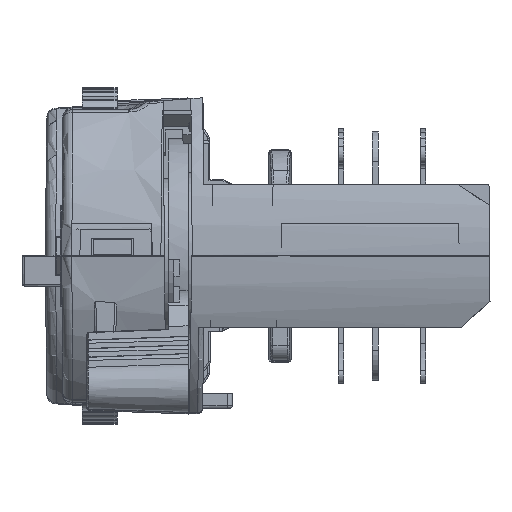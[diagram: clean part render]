
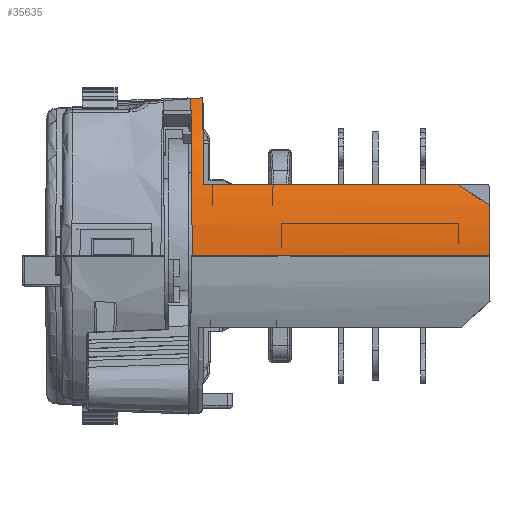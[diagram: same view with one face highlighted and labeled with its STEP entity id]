
A CAD part, left-side view. The second image highlights one B-rep face of the part: STEP entity #35635.
In plain terms, the highlighted cylindrical face has radius 20 mm (diameter 40 mm), a partial arc.
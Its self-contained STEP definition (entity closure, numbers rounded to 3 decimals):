
#31554=CARTESIAN_POINT('',(-117.167,7.299,
15.559));
#31555=CARTESIAN_POINT('',(-117.177,7.426,
15.55));
#31556=CARTESIAN_POINT('',(-117.199,7.678,
15.533));
#31557=CARTESIAN_POINT('',(-117.232,8.057,
15.506));
#31558=CARTESIAN_POINT('',(-117.253,8.309,
15.488));
#31559=CARTESIAN_POINT('',(-117.264,8.435,
15.48));
#31564=CARTESIAN_POINT('',(-123.335,7.15,
7.));
#31565=CARTESIAN_POINT('',(-122.697,7.18,
8.708));
#31566=CARTESIAN_POINT('',(-121.01,7.234,
11.826));
#31567=CARTESIAN_POINT('',(-118.585,7.279,
14.414));
#31568=CARTESIAN_POINT('',(-117.167,7.299,
15.559));
#31573=DIRECTION('',(0.,1.,0.));
#31574=VECTOR('',#31573,25.039);
#31575=CARTESIAN_POINT('',(-123.335,-17.889,
7.));
#31576=LINE('',#31575,#31574);
#31580=DIRECTION('',(0.,-1.,0.));
#31581=VECTOR('',#31580,29.25);
#31582=CARTESIAN_POINT('',(-124.6,8.3,0.));
#31583=LINE('',#31582,#31581);
#31594=CARTESIAN_POINT('',(-124.6,8.3,0.));
#31595=CARTESIAN_POINT('',(-124.6,8.314,1.58));
#31596=CARTESIAN_POINT('',(-124.234,8.34,
4.565));
#31597=CARTESIAN_POINT('',(-122.81,8.375,
8.63));
#31598=CARTESIAN_POINT('',(-120.566,8.407,
12.305));
#31599=CARTESIAN_POINT('',(-118.487,8.426,
14.479));
#31600=CARTESIAN_POINT('',(-117.264,8.435,
15.48));
#32497=CARTESIAN_POINT('',(-123.965,-20.906,
5.));
#32498=CARTESIAN_POINT('',(-124.388,-20.921,
3.36));
#32499=CARTESIAN_POINT('',(-124.6,-20.935,
1.694));
#32500=CARTESIAN_POINT('',(-124.6,-20.95,0.));
#32554=CARTESIAN_POINT('',(-123.335,-17.889,
7.));
#32555=CARTESIAN_POINT('',(-123.418,-18.222,
6.779));
#32556=CARTESIAN_POINT('',(-123.574,-18.89,
6.336));
#32557=CARTESIAN_POINT('',(-123.784,-19.896,
5.669));
#32558=CARTESIAN_POINT('',(-123.907,-20.569,
5.223));
#32559=CARTESIAN_POINT('',(-123.965,-20.906,
5.));
#34548=CARTESIAN_POINT('',(-123.335,7.15,
7.));
#34549=VERTEX_POINT('',#34548);
#34550=CARTESIAN_POINT('',(-123.335,-17.889,
7.));
#34551=VERTEX_POINT('',#34550);
#34631=CARTESIAN_POINT('',(-124.6,-20.95,
0.));
#34632=VERTEX_POINT('',#34631);
#34633=CARTESIAN_POINT('',(-124.6,8.3,0.));
#34634=VERTEX_POINT('',#34633);
#34701=CARTESIAN_POINT('',(-117.167,7.299,
15.559));
#34702=VERTEX_POINT('',#34701);
#34739=VERTEX_POINT('',#31600);
#34740=VERTEX_POINT('',#32497);
#35616=CARTESIAN_POINT('',(-104.6,-6.257,0.));
#35617=DIRECTION('',(0.,-1.,0.));
#35618=DIRECTION('',(-0.628,0.,0.778));
#35619=AXIS2_PLACEMENT_3D('',#35616,#35617,#35618);
#35620=CYLINDRICAL_SURFACE('',#35619,20.);
#35622=ORIENTED_EDGE('',*,*,#35621,.T.);
#35624=ORIENTED_EDGE('',*,*,#35623,.F.);
#35625=ORIENTED_EDGE('',*,*,#35465,.F.);
#35626=ORIENTED_EDGE('',*,*,#35185,.F.);
#35628=ORIENTED_EDGE('',*,*,#35627,.T.);
#35630=ORIENTED_EDGE('',*,*,#35629,.T.);
#35632=ORIENTED_EDGE('',*,*,#35631,.F.);
#35633=EDGE_LOOP('',(#35622,#35624,#35625,#35626,#35628,#35630,#35632));
#35634=FACE_OUTER_BOUND('',#35633,.F.);
#35635=ADVANCED_FACE('',(#35634),#35620,.T.);
#31560=B_SPLINE_CURVE_WITH_KNOTS('',3,(#31554,#31555,#31556,#31557,#31558,
#31559),.UNSPECIFIED.,.F.,.F.,(4,1,1,4),(0.,0.333,
0.667,1.),.UNSPECIFIED.);
#31569=B_SPLINE_CURVE_WITH_KNOTS('',3,(#31564,#31565,#31566,#31567,#31568),
.UNSPECIFIED.,.F.,.F.,(4,1,4),(0.,0.5,1.),.UNSPECIFIED.);
#31601=B_SPLINE_CURVE_WITH_KNOTS('',3,(#31594,#31595,#31596,#31597,#31598,
#31599,#31600),.UNSPECIFIED.,.F.,.F.,(4,1,1,1,4),(0.,0.25,0.5,0.75,
1.),.UNSPECIFIED.);
#32501=B_SPLINE_CURVE_WITH_KNOTS('',3,(#32497,#32498,#32499,#32500),
.UNSPECIFIED.,.F.,.F.,(4,4),(0.,1.),.UNSPECIFIED.);
#32560=B_SPLINE_CURVE_WITH_KNOTS('',3,(#32554,#32555,#32556,#32557,#32558,
#32559),.UNSPECIFIED.,.F.,.F.,(4,1,1,4),(0.,0.333,
0.667,1.),.UNSPECIFIED.);
#35185=EDGE_CURVE('',#34551,#34549,#31576,.T.);
#35465=EDGE_CURVE('',#34549,#34702,#31569,.T.);
#35621=EDGE_CURVE('',#34634,#34739,#31601,.T.);
#35623=EDGE_CURVE('',#34702,#34739,#31560,.T.);
#35627=EDGE_CURVE('',#34551,#34740,#32560,.T.);
#35629=EDGE_CURVE('',#34740,#34632,#32501,.T.);
#35631=EDGE_CURVE('',#34634,#34632,#31583,.T.);
